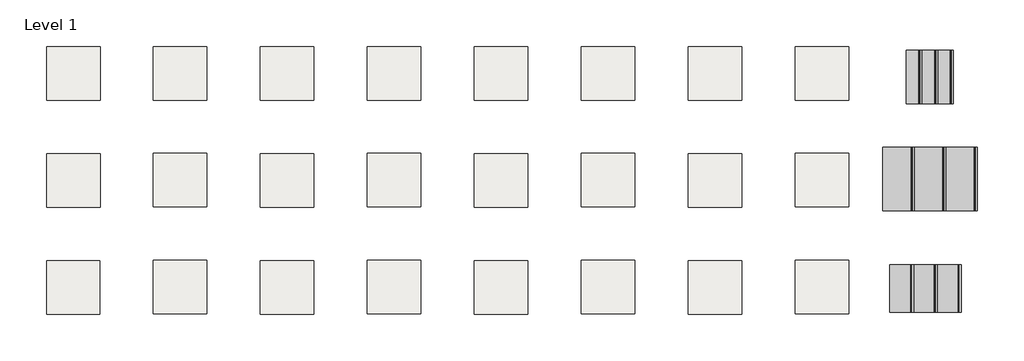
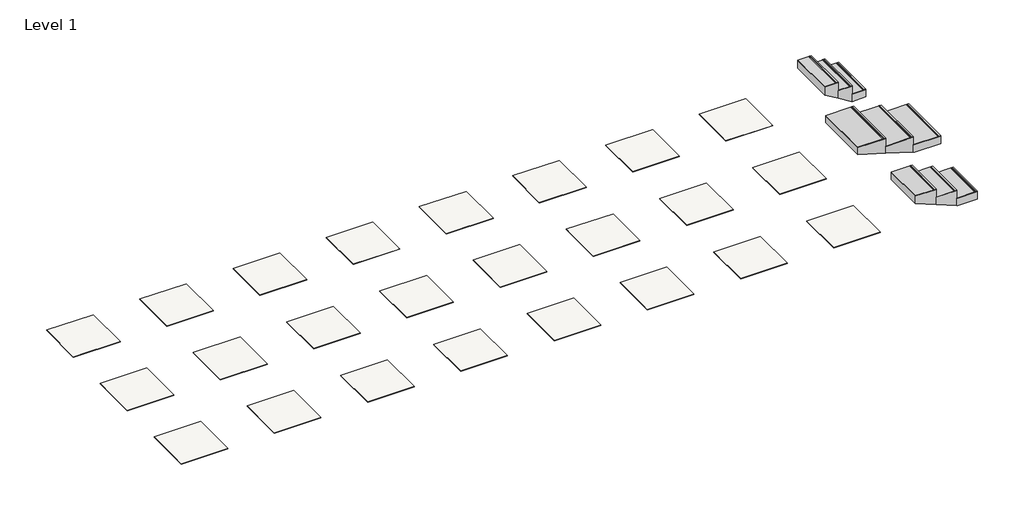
# One storey: 24 coverings, 3 stair flights.
"""IFC4 building model written with IfcOpenShell, lengths in millimetres."""

import ifcopenshell
import ifcopenshell.guid

model = None  # the IFC model being written
_history = None  # IfcOwnerHistory: only IFC2X3 demands one
_inside = {}  # id of a spatial element -> (the spatial element, [elements in it])
_under = {}  # id of a project, library or spatial element -> (it, [spatial elements below it])
_declared = {}  # id of a project -> (the project, [libraries it declares])
_typed = {}  # id of a type object -> (the type object, [elements of that type])
_made_of = {}  # id of a material, layer set ... -> (it, [elements and type objects made of it])


def new_model(schema):
    """Start an empty IFC model of exactly this schema.

    Asked for "IFC4X3", IfcOpenShell would pick the latest addendum, in which some entities
    have other attributes; the version numbers below select the first issue.
    IFC2X3 requires an IfcOwnerHistory on every rooted entity: one is made here for all.
    """
    global model, _history
    if schema == "IFC4X3":
        model = ifcopenshell.file(schema_version=(4, 3, 0, 0))
    else:
        model = ifcopenshell.file(schema=schema)
    _inside.clear()
    _under.clear()
    _declared.clear()
    _typed.clear()
    _made_of.clear()
    _history = None
    if model.schema == "IFC2X3":
        org = make("IfcOrganization", Name="unknown")
        user = make(
            "IfcPersonAndOrganization",
            ThePerson=make("IfcPerson", FamilyName="unknown"),
            TheOrganization=org,
        )
        app = make(
            "IfcApplication",
            ApplicationDeveloper=org,
            Version="unknown",
            ApplicationFullName="unknown",
            ApplicationIdentifier="unknown",
        )
        _history = make(
            "IfcOwnerHistory",
            OwningUser=user,
            OwningApplication=app,
            ChangeAction="ADDED",
            CreationDate=0,
        )
    return model


def make(cls, **values):
    """One entity of the class cls with the attributes given. An attribute that is None is left unset."""
    return model.create_entity(
        cls, **{name: value for name, value in values.items() if value is not None}
    )


def rooted(cls, **values):
    """An entity with a GlobalId (a new one), such as an element, a storey or a relation."""
    return make(cls, GlobalId=ifcopenshell.guid.new(), OwnerHistory=_history, **values)


def si_unit(unit_type, name, prefix=None):
    """IfcSIUnit, for example si_unit("LENGTHUNIT", "METRE", prefix="MILLI")."""
    return make("IfcSIUnit", UnitType=unit_type, Prefix=prefix, Name=name)


def assignment(units):
    """IfcUnitAssignment: the units of a project."""
    return None if units is None else make("IfcUnitAssignment", Units=units)


def point(xyz):
    """IfcCartesianPoint."""
    return None if xyz is None else make("IfcCartesianPoint", Coordinates=xyz)


def direction(xyz):
    """IfcDirection."""
    return None if xyz is None else make("IfcDirection", DirectionRatios=xyz)


def frame(location, z_axis=None, x_axis=None):
    """IfcAxis2Placement3D, a coordinate frame: its origin and axes. An axis left out is left unset."""
    return make(
        "IfcAxis2Placement3D",
        Location=point(location),
        Axis=direction(z_axis),
        RefDirection=direction(x_axis),
    )


def origin():
    """The frame at (0, 0, 0) with its axes left unset."""
    return frame((0.0, 0.0, 0.0))


def place(relative_to, where):
    """IfcLocalPlacement: puts the frame where relative to a parent placement (None: the world)."""
    return make(
        "IfcLocalPlacement", PlacementRelTo=relative_to, RelativePlacement=where
    )


def context(
    kind, dimensions, precision=None, world=None, true_north=None, identifier=None
):
    """IfcGeometricRepresentationContext, for example the 3D "Model" context."""
    return make(
        "IfcGeometricRepresentationContext",
        ContextIdentifier=identifier,
        ContextType=kind,
        CoordinateSpaceDimension=dimensions,
        Precision=precision,
        WorldCoordinateSystem=world,
        TrueNorth=true_north,
    )


def project(units=None, contexts=None):
    """IfcProject with its units and contexts."""
    return rooted(
        "IfcProject",
        Name="project",
        RepresentationContexts=contexts,
        UnitsInContext=assignment(units),
    )


def spatial(cls, under=None, at=None, **own):
    """A site, building, storey or space (cls), placed at a placement, below another one or the project."""
    s = rooted(cls, ObjectPlacement=at, **own)
    if under is not None:
        _under.setdefault(under.id(), (under, []))[1].append(s)
    return s


def polyline(points):
    """IfcPolyline through the points."""
    return make("IfcPolyline", Points=[point(p) for p in points])


def outline(outer, holes=None, kind="AREA"):
    """IfcArbitraryClosedProfileDef: a profile drawn as a closed curve; with holes, ...WithVoids."""
    if holes is None:
        return make("IfcArbitraryClosedProfileDef", ProfileType=kind, OuterCurve=outer)
    return make(
        "IfcArbitraryProfileDefWithVoids",
        ProfileType=kind,
        OuterCurve=outer,
        InnerCurves=holes,
    )


def extrude(swept, where, along, depth):
    """IfcExtrudedAreaSolid: the profile swept, set in the frame where, extruded along a direction by depth."""
    return make(
        "IfcExtrudedAreaSolid",
        SweptArea=swept,
        Position=where,
        ExtrudedDirection=direction(along),
        Depth=depth,
    )


def faces_of(points, faces, orient=None, outer=None):
    """IfcFace entities. A face is a list of loops; a loop is a list of indices into points, from 0.

    orient and outer hold one flag for each loop. By default every Orientation is true, the
    first loop of a face is its IfcFaceOuterBound and the others are IfcFaceBound.
    """
    made = []
    for i, loops in enumerate(faces):
        bounds = []
        for j, loop in enumerate(loops):
            is_outer = j == 0 if outer is None else outer[i][j]
            bounds.append(
                make(
                    "IfcFaceOuterBound" if is_outer else "IfcFaceBound",
                    Bound=make("IfcPolyLoop", Polygon=[points[k] for k in loop]),
                    Orientation=True if orient is None else orient[i][j],
                )
            )
        made.append(make("IfcFace", Bounds=bounds))
    return made


def faceted_brep(points, faces, orient=None, outer=None, voids=None):
    """IfcFacetedBrep: a solid bounded by flat faces; with voids (closed shells), ...WithVoids."""
    shared = [point(p) for p in points]
    hull = make("IfcClosedShell", CfsFaces=faces_of(shared, faces, orient, outer))
    if voids is None:
        return make("IfcFacetedBrep", Outer=hull)
    return make(
        "IfcFacetedBrepWithVoids",
        Outer=hull,
        Voids=[
            make(cls, CfsFaces=faces_of(shared, fs, o, b)) for cls, fs, o, b in voids
        ],
    )


def shape(context_of_items, identifier, shape_type, items):
    """IfcShapeRepresentation: the items that make up one representation, for example the "Body"."""
    return make(
        "IfcShapeRepresentation",
        ContextOfItems=context_of_items,
        RepresentationIdentifier=identifier,
        RepresentationType=shape_type,
        Items=items,
    )


def made_of(thing, what):
    """Note that an element or type object is made of a material, layer set ...; save() writes the relation."""
    if what is not None:
        _made_of.setdefault(what.id(), (what, []))[1].append(thing)
    return thing


def element(
    cls,
    number,
    at=None,
    inside=None,
    cuts=None,
    type_object=None,
    material=None,
    context=None,
    identifier="Body",
    shape_type=None,
    held_by="IfcProductDefinitionShape",
    body=None,
    shapes=None,
    **own,
):
    """One element of the class cls, such as IfcWall. Its Tag is "e" and its number.

    at: its placement. inside: the storey or other place that contains it. cuts: it is an
    opening in that element (IfcRelVoidsElement). A single representation is given by context,
    identifier, shape_type and body (its items); several are given by shapes. held_by: the class
    of the entity that holds the representations. save() writes the other relations.
    """
    e = rooted(cls, Tag="e%d" % number, ObjectPlacement=at, **own)
    if body is not None:
        shapes = [shape(context, identifier, shape_type, body)]
    if shapes is not None:
        e.Representation = make(held_by, Representations=shapes)
    if inside is not None:
        _inside.setdefault(inside.id(), (inside, []))[1].append(e)
    if cuts is not None:
        rooted(
            "IfcRelVoidsElement", RelatingBuildingElement=cuts, RelatedOpeningElement=e
        )
    if type_object is not None:
        _typed.setdefault(type_object.id(), (type_object, []))[1].append(e)
    return made_of(e, material)


def aggregate(whole, parts):
    """IfcRelAggregates: a whole, such as a stair, and the parts it consists of."""
    return rooted("IfcRelAggregates", RelatingObject=whole, RelatedObjects=parts)


def save(model, path):
    """Write the relations noted so far, then the file.

    IfcRelAggregates (storeys below a building ...), IfcRelContainedInSpatialStructure (elements
    in a storey), IfcRelDefinesByType, IfcRelAssociatesMaterial and IfcRelDeclares: one each for
    every whole, place, type object, material and project.
    """
    for whole, parts in _under.values():
        aggregate(whole, parts)
    for where, things in _inside.values():
        rooted(
            "IfcRelContainedInSpatialStructure",
            RelatedElements=things,
            RelatingStructure=where,
        )
    for kind, things in _typed.values():
        rooted("IfcRelDefinesByType", RelatedObjects=things, RelatingType=kind)
    for what, things in _made_of.values():
        rooted("IfcRelAssociatesMaterial", RelatedObjects=things, RelatingMaterial=what)
    for by, libraries in _declared.values():
        rooted("IfcRelDeclares", RelatingContext=by, RelatedDefinitions=libraries)
    model.write(path)


model = new_model("IFC4")

# Units and contexts
model_context = context("Model", 3, world=origin())
ifc_project = project(units=[si_unit("LENGTHUNIT", "METRE", prefix="MILLI")], contexts=[model_context])

# Site, building, storey
site = spatial("IfcSite", under=ifc_project)
building = spatial("IfcBuilding", under=site)
storey = spatial("IfcBuildingStorey", under=building, Name="Level 1", Elevation=0.0)

# Coverings
placement = place(None, origin())
element("IfcCovering", 1, ObjectType="REVIGRÉS-LOCUS-DG-30x60-SOFT GRIP-ALLOY", at=placement, inside=storey, context=model_context, shape_type="SweptSolid", body=[
    extrude(outline(polyline([(70140.9341098, 18731.1346775), (69140.9341098, 18731.1346775), (69140.9341098, 19731.1346775), (70140.9341098, 19731.1346775), (70140.9341098, 18731.1346775)])), frame((0.0, 0.0, -8.5), z_axis=(0.0, 0.0, 1.0), x_axis=(1.0, 0.0, 0.0)), (0.0, 0.0, 1.0), 8.5),
])
element("IfcCovering", 2, ObjectType="REVIGRÉS-LOCUS-DG-30x60-SILK-ALLOY", at=placement, inside=storey, context=model_context, shape_type="SweptSolid", body=[
    extrude(outline(polyline([(68141.0591098, 18727.0096775), (67140.8091098, 18727.0096775), (67140.8091098, 19727.0096775), (68141.0591098, 19727.0096775), (68141.0591098, 18727.0096775)])), frame((0.0, 0.0, -8.5), z_axis=(0.0, 0.0, 1.0), x_axis=(1.0, 0.0, 0.0)), (0.0, 0.0, 1.0), 8.5),
])
element("IfcCovering", 3, ObjectType="REVIGRÉS-LOCUS-DG-60x60-SOFT GRIP-ALLOY", at=placement, inside=storey, context=model_context, shape_type="SweptSolid", body=[
    extrude(outline(polyline([(70140.9341098, 16731.1346775), (69140.9341098, 16731.1346775), (69140.9341098, 17731.1346775), (70140.9341098, 17731.1346775), (70140.9341098, 16731.1346775)])), frame((0.0, 0.0, -8.5), z_axis=(0.0, 0.0, 1.0), x_axis=(1.0, 0.0, 0.0)), (0.0, 0.0, 1.0), 8.5),
])
element("IfcCovering", 4, ObjectType="REVIGRÉS-LOCUS-DG-60x60-SILK-ALLOY", at=placement, inside=storey, context=model_context, shape_type="SweptSolid", body=[
    extrude(outline(polyline([(68141.0591098, 16727.0096775), (67140.8091098, 16727.0096775), (67140.8091098, 17727.0096775), (68141.0591098, 17727.0096775), (68141.0591098, 16727.0096775)])), frame((0.0, 0.0, -8.5), z_axis=(0.0, 0.0, 1.0), x_axis=(1.0, 0.0, 0.0)), (0.0, 0.0, 1.0), 8.5),
])
element("IfcCovering", 5, ObjectType="REVIGRÉS-LOCUS-DG-45x90-SOFT GRIP-ALLOY", at=placement, inside=storey, context=model_context, shape_type="SweptSolid", body=[
    extrude(outline(polyline([(70140.9341098, 14731.1346775), (69140.9341098, 14731.1346775), (69140.9341098, 15731.1346775), (70140.9341098, 15731.1346775), (70140.9341098, 14731.1346775)])), frame((0.0, 0.0, -10.5), z_axis=(0.0, 0.0, 1.0), x_axis=(1.0, 0.0, 0.0)), (0.0, 0.0, 1.0), 10.5),
])
element("IfcCovering", 6, ObjectType="REVIGRÉS-LOCUS-DG-45x90-SILK-ALLOY", at=placement, inside=storey, context=model_context, shape_type="SweptSolid", body=[
    extrude(outline(polyline([(68140.6091098, 14726.5596775), (67141.2591098, 14726.5596775), (67141.2591098, 15726.5596775), (68140.6091098, 15726.5596775), (68140.6091098, 14726.5596775)])), frame((0.0, 0.0, -10.5), z_axis=(0.0, 0.0, 1.0), x_axis=(1.0, 0.0, 0.0)), (0.0, 0.0, 1.0), 10.5),
])
element("IfcCovering", 7, ObjectType="REVIGRÉS-LOCUS-DG-30x60-SOFT GRIP-BONE", at=placement, inside=storey, context=model_context, shape_type="SweptSolid", body=[
    extrude(outline(polyline([(74140.9341098, 18731.1346775), (73140.9341098, 18731.1346775), (73140.9341098, 19731.1346775), (74140.9341098, 19731.1346775), (74140.9341098, 18731.1346775)])), frame((0.0, 0.0, -8.5), z_axis=(0.0, 0.0, 1.0), x_axis=(1.0, 0.0, 0.0)), (0.0, 0.0, 1.0), 8.5),
])
element("IfcCovering", 8, ObjectType="REVIGRÉS-LOCUS-DG-30x60-SILK-BONE", at=placement, inside=storey, context=model_context, shape_type="SweptSolid", body=[
    extrude(outline(polyline([(72141.0591098, 18727.0096775), (71140.8091098, 18727.0096775), (71140.8091098, 19727.0096775), (72141.0591098, 19727.0096775), (72141.0591098, 18727.0096775)])), frame((0.0, 0.0, -8.5), z_axis=(0.0, 0.0, 1.0), x_axis=(1.0, 0.0, 0.0)), (0.0, 0.0, 1.0), 8.5),
])
element("IfcCovering", 9, ObjectType="REVIGRÉS-LOCUS-DG-60x60-SOFT GRIP-BONE", at=placement, inside=storey, context=model_context, shape_type="SweptSolid", body=[
    extrude(outline(polyline([(74140.9341098, 16731.1346775), (73140.9341098, 16731.1346775), (73140.9341098, 17731.1346775), (74140.9341098, 17731.1346775), (74140.9341098, 16731.1346775)])), frame((0.0, 0.0, -8.5), z_axis=(0.0, 0.0, 1.0), x_axis=(1.0, 0.0, 0.0)), (0.0, 0.0, 1.0), 8.5),
])
element("IfcCovering", 10, ObjectType="REVIGRÉS-LOCUS-DG-60x60-SILK-BONE", at=placement, inside=storey, context=model_context, shape_type="SweptSolid", body=[
    extrude(outline(polyline([(72141.0591098, 16727.0096775), (71140.8091098, 16727.0096775), (71140.8091098, 17727.0096775), (72141.0591098, 17727.0096775), (72141.0591098, 16727.0096775)])), frame((0.0, 0.0, -8.5), z_axis=(0.0, 0.0, 1.0), x_axis=(1.0, 0.0, 0.0)), (0.0, 0.0, 1.0), 8.5),
])
element("IfcCovering", 11, ObjectType="REVIGRÉS-LOCUS-DG-45x90-SOFT GRIP-BONE", at=placement, inside=storey, context=model_context, shape_type="SweptSolid", body=[
    extrude(outline(polyline([(74140.9341098, 14731.1346775), (73140.9341098, 14731.1346775), (73140.9341098, 15731.1346775), (74140.9341098, 15731.1346775), (74140.9341098, 14731.1346775)])), frame((0.0, 0.0, -10.5), z_axis=(0.0, 0.0, 1.0), x_axis=(1.0, 0.0, 0.0)), (0.0, 0.0, 1.0), 10.5),
])
element("IfcCovering", 12, ObjectType="REVIGRÉS-LOCUS-DG-45x90-SILK-BONE", at=placement, inside=storey, context=model_context, shape_type="SweptSolid", body=[
    extrude(outline(polyline([(72140.6091098, 14726.5596775), (71141.2591098, 14726.5596775), (71141.2591098, 15726.5596775), (72140.6091098, 15726.5596775), (72140.6091098, 14726.5596775)])), frame((0.0, 0.0, -10.5), z_axis=(0.0, 0.0, 1.0), x_axis=(1.0, 0.0, 0.0)), (0.0, 0.0, 1.0), 10.5),
])
element("IfcCovering", 13, ObjectType="REVIGRÉS-LOCUS-DG-30x60-SOFT GRIP-GRIS", at=placement, inside=storey, context=model_context, shape_type="SweptSolid", body=[
    extrude(outline(polyline([(78140.9341098, 18731.1346775), (77140.9341098, 18731.1346775), (77140.9341098, 19731.1346775), (78140.9341098, 19731.1346775), (78140.9341098, 18731.1346775)])), frame((0.0, 0.0, -8.5), z_axis=(0.0, 0.0, 1.0), x_axis=(1.0, 0.0, 0.0)), (0.0, 0.0, 1.0), 8.5),
])
element("IfcCovering", 14, ObjectType="REVIGRÉS-LOCUS-DG-30x60-SILK-GRIS", at=placement, inside=storey, context=model_context, shape_type="SweptSolid", body=[
    extrude(outline(polyline([(76141.0591098, 18727.0096775), (75140.8091098, 18727.0096775), (75140.8091098, 19727.0096775), (76141.0591098, 19727.0096775), (76141.0591098, 18727.0096775)])), frame((0.0, 0.0, -8.5), z_axis=(0.0, 0.0, 1.0), x_axis=(1.0, 0.0, 0.0)), (0.0, 0.0, 1.0), 8.5),
])
element("IfcCovering", 15, ObjectType="REVIGRÉS-LOCUS-DG-60x60-SOFT GRIP-GRIS", at=placement, inside=storey, context=model_context, shape_type="SweptSolid", body=[
    extrude(outline(polyline([(78140.9341098, 16731.1346775), (77140.9341098, 16731.1346775), (77140.9341098, 17731.1346775), (78140.9341098, 17731.1346775), (78140.9341098, 16731.1346775)])), frame((0.0, 0.0, -8.5), z_axis=(0.0, 0.0, 1.0), x_axis=(1.0, 0.0, 0.0)), (0.0, 0.0, 1.0), 8.5),
])
element("IfcCovering", 16, ObjectType="REVIGRÉS-LOCUS-DG-60x60-SILK-GRIS", at=placement, inside=storey, context=model_context, shape_type="SweptSolid", body=[
    extrude(outline(polyline([(76141.0591098, 16727.0096775), (75140.8091098, 16727.0096775), (75140.8091098, 17727.0096775), (76141.0591098, 17727.0096775), (76141.0591098, 16727.0096775)])), frame((0.0, 0.0, -8.5), z_axis=(0.0, 0.0, 1.0), x_axis=(1.0, 0.0, 0.0)), (0.0, 0.0, 1.0), 8.5),
])
element("IfcCovering", 17, ObjectType="REVIGRÉS-LOCUS-DG-45x90-SOFT GRIP-GRIS", at=placement, inside=storey, context=model_context, shape_type="SweptSolid", body=[
    extrude(outline(polyline([(78140.9341098, 14731.1346775), (77140.9341098, 14731.1346775), (77140.9341098, 15731.1346775), (78140.9341098, 15731.1346775), (78140.9341098, 14731.1346775)])), frame((0.0, 0.0, -10.5), z_axis=(0.0, 0.0, 1.0), x_axis=(1.0, 0.0, 0.0)), (0.0, 0.0, 1.0), 10.5),
])
element("IfcCovering", 18, ObjectType="REVIGRÉS-LOCUS-DG-45x90-SILK-GRIS", at=placement, inside=storey, context=model_context, shape_type="SweptSolid", body=[
    extrude(outline(polyline([(76140.6091098, 14726.5596775), (75141.2591098, 14726.5596775), (75141.2591098, 15726.5596775), (76140.6091098, 15726.5596775), (76140.6091098, 14726.5596775)])), frame((0.0, 0.0, -10.5), z_axis=(0.0, 0.0, 1.0), x_axis=(1.0, 0.0, 0.0)), (0.0, 0.0, 1.0), 10.5),
])
element("IfcCovering", 19, ObjectType="REVIGRÉS-LOCUS-DG-30x60-SOFT GRIP-SMOG", at=placement, inside=storey, context=model_context, shape_type="SweptSolid", body=[
    extrude(outline(polyline([(82140.9341098, 18731.1346775), (81140.9341098, 18731.1346775), (81140.9341098, 19731.1346775), (82140.9341098, 19731.1346775), (82140.9341098, 18731.1346775)])), frame((0.0, 0.0, -8.5), z_axis=(0.0, 0.0, 1.0), x_axis=(1.0, 0.0, 0.0)), (0.0, 0.0, 1.0), 8.5),
])
element("IfcCovering", 20, ObjectType="REVIGRÉS-LOCUS-DG-30x60-SILK-SMOG", at=placement, inside=storey, context=model_context, shape_type="SweptSolid", body=[
    extrude(outline(polyline([(80141.0591098, 18727.0096775), (79140.8091098, 18727.0096775), (79140.8091098, 19727.0096775), (80141.0591098, 19727.0096775), (80141.0591098, 18727.0096775)])), frame((0.0, 0.0, -8.5), z_axis=(0.0, 0.0, 1.0), x_axis=(1.0, 0.0, 0.0)), (0.0, 0.0, 1.0), 8.5),
])
element("IfcCovering", 21, ObjectType="REVIGRÉS-LOCUS-DG-60x60-SOFT GRIP-SMOG", at=placement, inside=storey, context=model_context, shape_type="SweptSolid", body=[
    extrude(outline(polyline([(82140.9341098, 16731.1346775), (81140.9341098, 16731.1346775), (81140.9341098, 17731.1346775), (82140.9341098, 17731.1346775), (82140.9341098, 16731.1346775)])), frame((0.0, 0.0, -8.5), z_axis=(0.0, 0.0, 1.0), x_axis=(1.0, 0.0, 0.0)), (0.0, 0.0, 1.0), 8.5),
])
element("IfcCovering", 22, ObjectType="REVIGRÉS-LOCUS-DG-60x60-SILK-SMOG", at=placement, inside=storey, context=model_context, shape_type="SweptSolid", body=[
    extrude(outline(polyline([(80141.0591098, 16727.0096775), (79140.8091098, 16727.0096775), (79140.8091098, 17727.0096775), (80141.0591098, 17727.0096775), (80141.0591098, 16727.0096775)])), frame((0.0, 0.0, -8.5), z_axis=(0.0, 0.0, 1.0), x_axis=(1.0, 0.0, 0.0)), (0.0, 0.0, 1.0), 8.5),
])
element("IfcCovering", 23, ObjectType="REVIGRÉS-LOCUS-DG-45x90-SOFT GRIP-SMOG", at=placement, inside=storey, context=model_context, shape_type="SweptSolid", body=[
    extrude(outline(polyline([(82140.9341098, 14731.1346775), (81140.9341098, 14731.1346775), (81140.9341098, 15731.1346775), (82140.9341098, 15731.1346775), (82140.9341098, 14731.1346775)])), frame((0.0, 0.0, -10.5), z_axis=(0.0, 0.0, 1.0), x_axis=(1.0, 0.0, 0.0)), (0.0, 0.0, 1.0), 10.5),
])
element("IfcCovering", 24, ObjectType="REVIGRÉS-LOCUS-DG-45x90-SILK-SMOG", at=placement, inside=storey, context=model_context, shape_type="SweptSolid", body=[
    extrude(outline(polyline([(80140.6091098, 14726.5596775), (79141.2591098, 14726.5596775), (79141.2591098, 15726.5596775), (80140.6091098, 15726.5596775), (80140.6091098, 14726.5596775)])), frame((0.0, 0.0, -10.5), z_axis=(0.0, 0.0, 1.0), x_axis=(1.0, 0.0, 0.0)), (0.0, 0.0, 1.0), 10.5),
])

# Stair flights
element("IfcStairFlight", 25, ObjectType="REVIGRÉS-LOCUS-DG-30X60", at=placement, inside=storey, context=model_context, shape_type="SolidModel", body=[
    faceted_brep([(83808.4341098, 18664.727014, 169.4941176), (84103.4341098, 18664.727014, 169.4941176), (84103.4341098, 19664.727014, 169.4941176), (83808.4341098, 19664.727014, 169.4941176), (83808.4341098, 18664.727014, 0.0), (84103.4341098, 18664.727014, 0.0), (84103.4341098, 19664.727014, 0.0), (83808.4341098, 19664.727014, 0.0), (83513.4341098, 18664.727014, 348.7882353), (83808.4341098, 18664.727014, 348.7882353), (83808.4341098, 19664.727014, 348.7882353), (83513.4341098, 19664.727014, 348.7882353), (83513.4341098, 18664.727014, 173.2566689), (83798.5004466, 18664.727014, 0.0), (83798.5004466, 19664.727014, 0.0), (83513.4341098, 19664.727014, 173.2566689), (83218.4341098, 18664.727014, 528.0823529), (83513.4341098, 18664.727014, 528.0823529), (83513.4341098, 19664.727014, 528.0823529), (83218.4341098, 19664.727014, 528.0823529), (83218.4341098, 18664.727014, 352.5507865), (83218.4341098, 19664.727014, 352.5507865)], [[[0, 1, 2, 3]], [[1, 0, 4, 5]], [[2, 1, 5, 6]], [[3, 2, 6, 7]], [[8, 9, 10, 11]], [[4, 0, 9, 8, 12, 13]], [[0, 3, 10, 9]], [[3, 7, 14, 15, 11, 10]], [[16, 17, 18, 19]], [[17, 16, 20, 12, 8]], [[8, 11, 18, 17]], [[19, 18, 11, 15, 21]], [[16, 19, 21, 20]], [[5, 4, 13, 14, 7, 6]], [[14, 13, 12, 20, 21, 15]]]),
    extrude(outline(polyline([(179.2941176, 84073.4341098), (178.2941176, 84073.4341098), (178.2941176, 84068.4341098), (179.2941176, 84068.4341098), (179.2941176, 84058.4341098), (178.2941176, 84058.4341098), (178.2941176, 84053.4341098), (179.2941176, 84053.4341098), (179.2941176, 84043.4341098), (178.2941176, 84043.4341098), (178.2941176, 84038.4341098), (179.2941176, 84038.4341098), (179.2941176, 83808.4341098), (170.7941176, 83808.4341098), (170.7941176, 84103.4341098), (179.2941176, 84103.4341098), (179.2941176, 84073.4341098)])), frame((0.0, 18664.727014, 0.0), z_axis=(0.0, 1.0, 0.0), x_axis=(0.0, 0.0, 1.0)), (0.0, 0.0, 1.0), 1000.0),
    extrude(outline(polyline([(358.5882353, 83778.4341098), (357.5882353, 83778.4341098), (357.5882353, 83773.4341098), (358.5882353, 83773.4341098), (358.5882353, 83763.4341098), (357.5882353, 83763.4341098), (357.5882353, 83758.4341098), (358.5882353, 83758.4341098), (358.5882353, 83748.4341098), (357.5882353, 83748.4341098), (357.5882353, 83743.4341098), (358.5882353, 83743.4341098), (358.5882353, 83513.4341098), (350.0882353, 83513.4341098), (350.0882353, 83808.4341098), (358.5882353, 83808.4341098), (358.5882353, 83778.4341098)])), frame((0.0, 18664.727014, 0.0), z_axis=(0.0, 1.0, 0.0), x_axis=(0.0, 0.0, 1.0)), (0.0, 0.0, 1.0), 1000.0),
    extrude(outline(polyline([(537.8823529, 83483.4341098), (536.8823529, 83483.4341098), (536.8823529, 83478.4341098), (537.8823529, 83478.4341098), (537.8823529, 83468.4341098), (536.8823529, 83468.4341098), (536.8823529, 83463.4341098), (537.8823529, 83463.4341098), (537.8823529, 83453.4341098), (536.8823529, 83453.4341098), (536.8823529, 83448.4341098), (537.8823529, 83448.4341098), (537.8823529, 83218.4341098), (529.3823529, 83218.4341098), (529.3823529, 83513.4341098), (537.8823529, 83513.4341098), (537.8823529, 83483.4341098)])), frame((0.0, 18664.727014, 0.0), z_axis=(0.0, 1.0, 0.0), x_axis=(0.0, 0.0, 1.0)), (0.0, 0.0, 1.0), 1000.0),
])
element("IfcStairFlight", 26, ObjectType="REVIGRÉS-LOCUS-DG-45X90", at=placement, inside=storey, context=model_context, shape_type="SolidModel", body=[
    faceted_brep([(83801.0767247, 14762.8035557, 169.4941176), (84245.0767247, 14762.8035557, 169.4941176), (84245.0767247, 15653.8035557, 169.4941176), (83801.0767247, 15653.8035557, 169.4941176), (83801.0767247, 14762.8035557, 7.72574), (83820.2085769, 14762.8035557, 0.0), (84245.0767247, 14762.8035557, 0.0), (84245.0767247, 15653.8035557, 0.0), (83820.2085769, 15653.8035557, 0.0), (83801.0767247, 15653.8035557, 7.72574), (83357.0767247, 14762.8035557, 348.7882353), (83801.0767247, 14762.8035557, 348.7882353), (83801.0767247, 15653.8035557, 348.7882353), (83357.0767247, 15653.8035557, 348.7882353), (83357.0767247, 14762.8035557, 187.0198576), (83357.0767247, 15653.8035557, 187.0198576), (82913.0767247, 14762.8035557, 528.0823529), (83357.0767247, 14762.8035557, 528.0823529), (83357.0767247, 15653.8035557, 528.0823529), (82913.0767247, 15653.8035557, 528.0823529), (82913.0767247, 14762.8035557, 366.3139753), (82913.0767247, 15653.8035557, 366.3139753)], [[[0, 1, 2, 3]], [[1, 0, 4, 5, 6]], [[2, 1, 6, 7]], [[3, 2, 7, 8, 9]], [[10, 11, 12, 13]], [[11, 10, 14, 4, 0]], [[0, 3, 12, 11]], [[13, 12, 3, 9, 15]], [[16, 17, 18, 19]], [[17, 16, 20, 14, 10]], [[10, 13, 18, 17]], [[19, 18, 13, 15, 21]], [[16, 19, 21, 20]], [[7, 6, 5, 8]], [[8, 5, 4, 14, 20, 21, 15, 9]]]),
    extrude(outline(polyline([(179.2941176, 84215.0767247), (178.2941176, 84215.0767247), (178.2941176, 84210.0767247), (179.2941176, 84210.0767247), (179.2941176, 84200.0767247), (178.2941176, 84200.0767247), (178.2941176, 84195.0767247), (179.2941176, 84195.0767247), (179.2941176, 84185.0767247), (178.2941176, 84185.0767247), (178.2941176, 84180.0767247), (179.2941176, 84180.0767247), (179.2941176, 83801.5767247), (168.7941176, 83801.5767247), (168.7941176, 84245.0767247), (179.2941176, 84245.0767247), (179.2941176, 84215.0767247)])), frame((0.0, 14762.8035557, 0.0), z_axis=(0.0, 1.0, 0.0), x_axis=(0.0, 0.0, 1.0)), (0.0, 0.0, 1.0), 891.0),
    extrude(outline(polyline([(358.5882353, 83771.0767247), (357.5882353, 83771.0767247), (357.5882353, 83766.0767247), (358.5882353, 83766.0767247), (358.5882353, 83756.0767247), (357.5882353, 83756.0767247), (357.5882353, 83751.0767247), (358.5882353, 83751.0767247), (358.5882353, 83741.0767247), (357.5882353, 83741.0767247), (357.5882353, 83736.0767247), (358.5882353, 83736.0767247), (358.5882353, 83357.5767247), (348.0882353, 83357.5767247), (348.0882353, 83801.0767247), (358.5882353, 83801.0767247), (358.5882353, 83771.0767247)])), frame((0.0, 14762.8035557, 0.0), z_axis=(0.0, 1.0, 0.0), x_axis=(0.0, 0.0, 1.0)), (0.0, 0.0, 1.0), 891.0),
    extrude(outline(polyline([(537.8823529, 83327.0767247), (536.8823529, 83327.0767247), (536.8823529, 83322.0767247), (537.8823529, 83322.0767247), (537.8823529, 83312.0767247), (536.8823529, 83312.0767247), (536.8823529, 83307.0767247), (537.8823529, 83307.0767247), (537.8823529, 83297.0767247), (536.8823529, 83297.0767247), (536.8823529, 83292.0767247), (537.8823529, 83292.0767247), (537.8823529, 82913.5767247), (527.3823529, 82913.5767247), (527.3823529, 83357.0767247), (537.8823529, 83357.0767247), (537.8823529, 83327.0767247)])), frame((0.0, 14762.8035557, 0.0), z_axis=(0.0, 1.0, 0.0), x_axis=(0.0, 0.0, 1.0)), (0.0, 0.0, 1.0), 891.0),
])
element("IfcStairFlight", 27, ObjectType="REVIGRÉS-LOCUS-DG-60X60", at=placement, inside=storey, context=model_context, shape_type="SolidModel", body=[
    faceted_brep([(83960.3636504, 16660.5726454, 168.7941176), (84552.3636504, 16660.5726454, 168.7941176), (84552.3636504, 17848.5726454, 168.7941176), (83960.3636504, 17848.5726454, 168.7941176), (83960.3636504, 16660.5726454, 12.0656358), (84000.2024165, 16660.5726454, 0.0), (84552.3636504, 16660.5726454, 0.0), (84552.3636504, 17848.5726454, 0.0), (84000.2024165, 17848.5726454, 0.0), (83960.3636504, 17848.5726454, 12.0656358), (83368.3636504, 16660.5726454, 348.0882353), (83960.3636504, 16660.5726454, 348.0882353), (83960.3636504, 17848.5726454, 348.0882353), (83368.3636504, 17848.5726454, 348.0882353), (83368.3636504, 16660.5726454, 191.3597535), (83368.3636504, 17848.5726454, 191.3597535), (82776.3636504, 16660.5726454, 527.3823529), (83368.3636504, 16660.5726454, 527.3823529), (83368.3636504, 17848.5726454, 527.3823529), (82776.3636504, 17848.5726454, 527.3823529), (82776.3636504, 16660.5726454, 370.6538711), (82776.3636504, 17848.5726454, 370.6538711)], [[[0, 1, 2, 3]], [[1, 0, 4, 5, 6]], [[2, 1, 6, 7]], [[3, 2, 7, 8, 9]], [[10, 11, 12, 13]], [[11, 10, 14, 4, 0]], [[0, 3, 12, 11]], [[13, 12, 3, 9, 15]], [[16, 17, 18, 19]], [[17, 16, 20, 14, 10]], [[10, 13, 18, 17]], [[19, 18, 13, 15, 21]], [[16, 19, 21, 20]], [[7, 6, 5, 8]], [[8, 5, 4, 14, 20, 21, 15, 9]]]),
    extrude(outline(polyline([(179.2941176, 84522.3636504), (178.2941176, 84522.3636504), (178.2941176, 84517.3636504), (179.2941176, 84517.3636504), (179.2941176, 84507.3636504), (178.2941176, 84507.3636504), (178.2941176, 84502.3636504), (179.2941176, 84502.3636504), (179.2941176, 84492.3636504), (178.2941176, 84492.3636504), (178.2941176, 84487.3636504), (179.2941176, 84487.3636504), (179.2941176, 83960.3636504), (168.7941176, 83960.3636504), (168.7941176, 84552.3636504), (179.2941176, 84552.3636504), (179.2941176, 84522.3636504)])), frame((0.0, 16660.5726454, 0.0), z_axis=(0.0, 1.0, 0.0), x_axis=(0.0, 0.0, 1.0)), (0.0, 0.0, 1.0), 1188.0),
    extrude(outline(polyline([(358.5882353, 83930.3636504), (357.5882353, 83930.3636504), (357.5882353, 83925.3636504), (358.5882353, 83925.3636504), (358.5882353, 83915.3636504), (357.5882353, 83915.3636504), (357.5882353, 83910.3636504), (358.5882353, 83910.3636504), (358.5882353, 83900.3636504), (357.5882353, 83900.3636504), (357.5882353, 83895.3636504), (358.5882353, 83895.3636504), (358.5882353, 83368.3636504), (348.0882353, 83368.3636504), (348.0882353, 83960.3636504), (358.5882353, 83960.3636504), (358.5882353, 83930.3636504)])), frame((0.0, 16660.5726454, 0.0), z_axis=(0.0, 1.0, 0.0), x_axis=(0.0, 0.0, 1.0)), (0.0, 0.0, 1.0), 1188.0),
    extrude(outline(polyline([(537.8823529, 83338.3636504), (536.8823529, 83338.3636504), (536.8823529, 83333.3636504), (537.8823529, 83333.3636504), (537.8823529, 83323.3636504), (536.8823529, 83323.3636504), (536.8823529, 83318.3636504), (537.8823529, 83318.3636504), (537.8823529, 83308.3636504), (536.8823529, 83308.3636504), (536.8823529, 83303.3636504), (537.8823529, 83303.3636504), (537.8823529, 82776.3636504), (527.3823529, 82776.3636504), (527.3823529, 83368.3636504), (537.8823529, 83368.3636504), (537.8823529, 83338.3636504)])), frame((0.0, 16660.5726454, 0.0), z_axis=(0.0, 1.0, 0.0), x_axis=(0.0, 0.0, 1.0)), (0.0, 0.0, 1.0), 1188.0),
])

save(model, "model.ifc")
